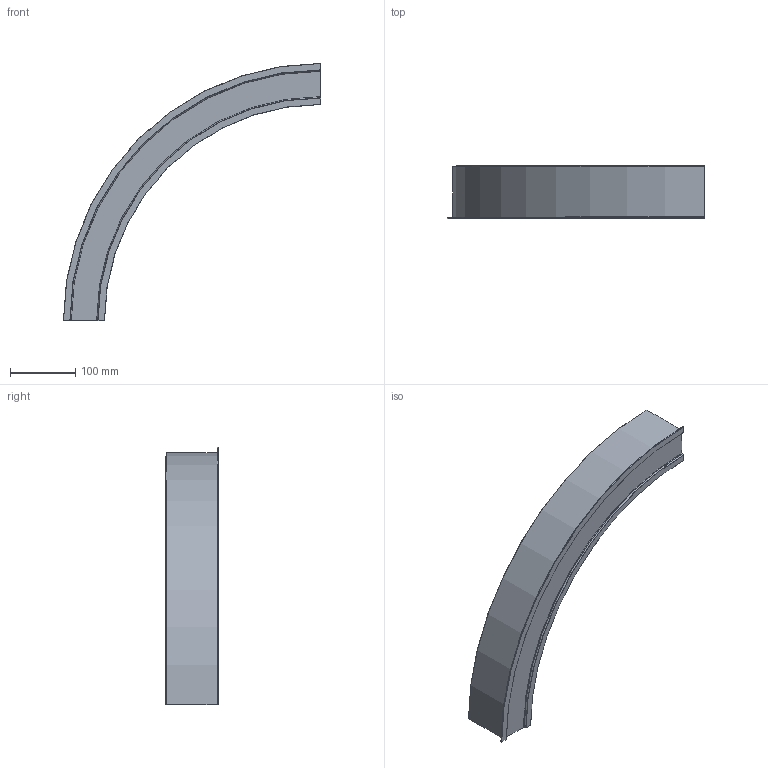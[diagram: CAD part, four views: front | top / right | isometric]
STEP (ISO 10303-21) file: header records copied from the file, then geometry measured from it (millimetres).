
FILE_DESCRIPTION (( 'STEP AP203' ), '1' );
FILE_NAME ('mLight_Swerve 47 Recessed_R362.5 mm 90 deg.STEP', '2020-04-01T10:11:27', ( '' ), ( '' ), 'SwSTEP 2.0', 'SolidWorks 2017', '' );
FILE_SCHEMA (( 'CONFIG_CONTROL_DESIGN' ));
Length unit declared in the file: millimetre
Products named in the file (1): mLight_Swerve 47 Recessed_R362.5 mm 90 deg
Bounding box: 394 x 80.63 x 394 mm (x, y, z)
Volume: 2067537.8 mm3; surface area: 182647.4 mm2
Topology: 1 solids, 1 shells, 54 faces, 156 edges, 104 vertices
Faces by surface type: torus 28, plane 12, cylinder 8, cone 6
Entity records: 1925 total; most frequent: DIRECTION 374, CARTESIAN_POINT 315, ORIENTED_EDGE 312, AXIS2_PLACEMENT_3D 163, EDGE_CURVE 156, CIRCLE 108, VERTEX_POINT 104, EDGE_LOOP 54
